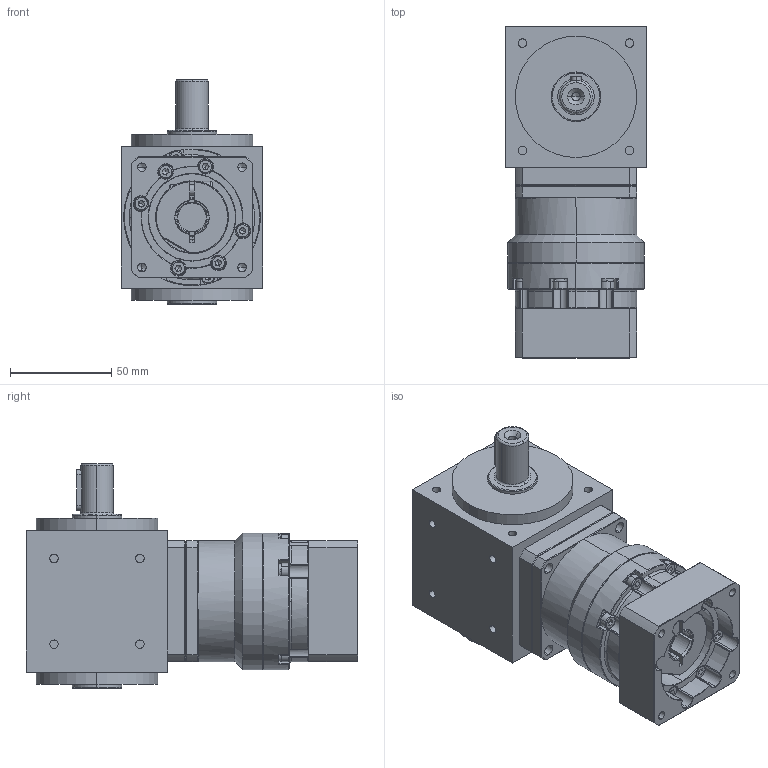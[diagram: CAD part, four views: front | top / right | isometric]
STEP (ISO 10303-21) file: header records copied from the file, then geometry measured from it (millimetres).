
FILE_DESCRIPTION (( 'STEP AP203' ), '1' );
FILE_NAME ('AAW070AS-L1-P 14-50-70-M5.STEP', '2024-12-23T08:32:27', ( '' ), ( '' ), 'SwSTEP 2.0', 'SolidWorks 2021', '' );
FILE_SCHEMA (( 'CONFIG_CONTROL_DESIGN' ));
Length unit declared in the file: millimetre
Products named in the file (3): AAW070AS-L1-P 14-50-70-M5; VRB-060-L1-S2-P1 14-50-70-M5
Assembly tree (2 placements, depth 2):
  AAW070AS-L1-P 14-50-70-M5
    AAW070AS-L1-P 14-50-70-M5
    VRB-060-L1-S2-P1 14-50-70-M5
Bounding box: 70 x 164 x 111 mm (x, y, z)
Volume: 630510.3 mm3; surface area: 99506.3 mm2
Topology: 32 solids, 32 shells, 1047 faces, 2540 edges, 1580 vertices
Faces by surface type: plane 414, cylinder 371, cone 192, torus 58, bspline 12
Entity records: 31981 total; most frequent: CARTESIAN_POINT 6950, DIRECTION 5491, ORIENTED_EDGE 4980, EDGE_CURVE 2490, AXIS2_PLACEMENT_3D 2196, VERTEX_POINT 1580, EDGE_LOOP 1162, CIRCLE 1156
